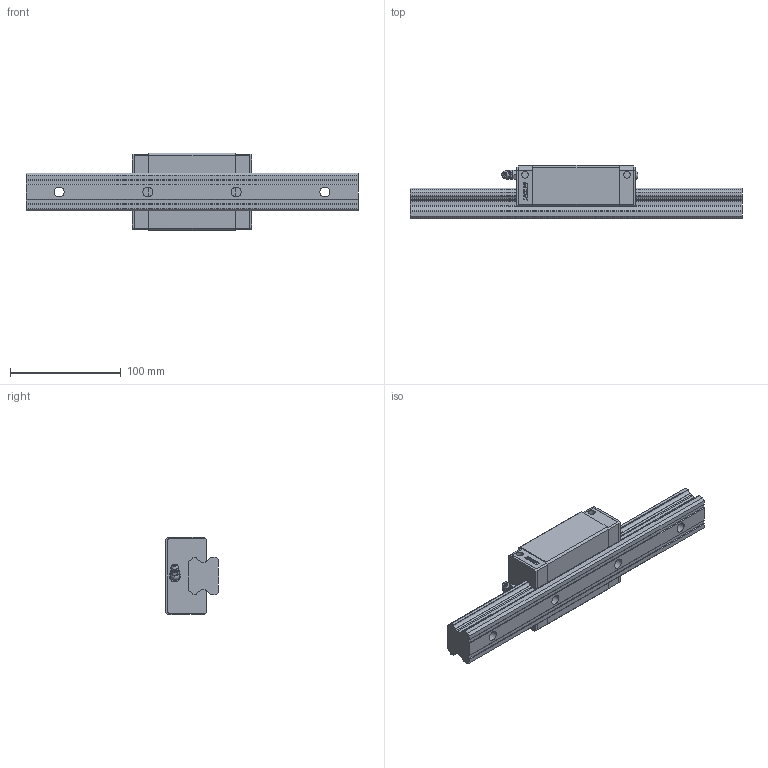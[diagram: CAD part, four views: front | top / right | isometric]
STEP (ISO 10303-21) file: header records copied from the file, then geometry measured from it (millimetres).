
FILE_DESCRIPTION(/* description */ (''),/* implementation_level */ '2;1');
FILE_NAME(/* name */ 'D:\3D網頁資料庫\Download\3D\EGH35CA1R300Z0C_GW202101009177\EGH35CA1R300Z0C_GW202101009177.stp',/* time_stamp */ '2021-01-20T15:06:21+08:00',/* author */ ('tim.lin'),/* organization */ (''),/* preprocessor_version */ 'ST-DEVELOPER v16.13',/* originating_system */ 'Autodesk Inventor 2018',/* authorisation */ '');
FILE_SCHEMA (('AUTOMOTIVE_DESIGN { 1 0 10303 214 3 1 1 }'));
Products named in the file (5): EGH35CA1R300Z0C_GW202101009177; EGR35_temp-1; EGH35C_右封_temp; 34320001; M6H
Assembly tree (4 placements, depth 2):
  EGH35CA1R300Z0C_GW202101009177
    EGR35_temp-1
    EGH35C_右封_temp
    34320001
    M6H
Bounding box: 300 x 48 x 70 mm (x, y, z)
Volume: 454808.7 mm3; surface area: 92114.4 mm2
Topology: 8 solids, 9 shells, 825 faces, 2247 edges, 1470 vertices
Faces by surface type: plane 515, cylinder 203, bspline 61, cone 42, sphere 3, torus 1
Full cylindrical faces by diameter (mm): 1 x2, 2 x1, 6 x6, 6.4 x4, 6.647 x4, 7.3 x2, 8 x2, 9 x4, 10.5 x2, 14 x4
Entity records: 27368 total; most frequent: CARTESIAN_POINT 6558, ORIENTED_EDGE 4388, DIRECTION 4080, EDGE_CURVE 2194, LINE 1592, VECTOR 1592, VERTEX_POINT 1457, AXIS2_PLACEMENT_3D 1244
